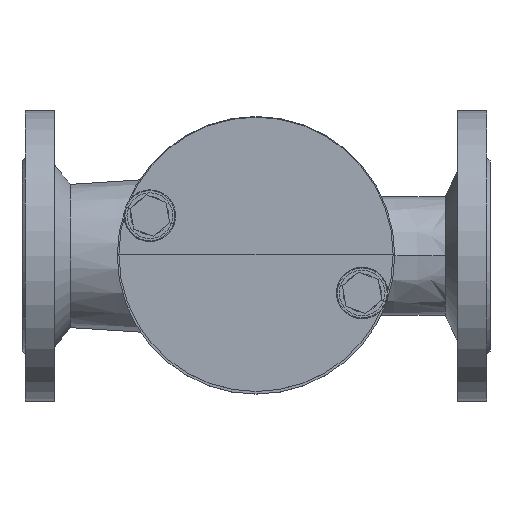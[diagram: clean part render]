
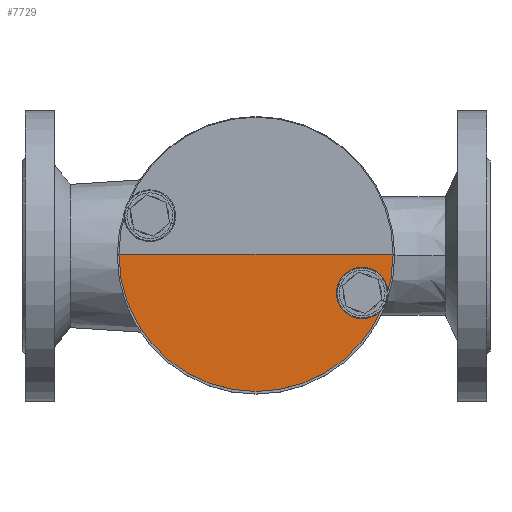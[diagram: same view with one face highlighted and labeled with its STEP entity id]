
A CAD part, top view. The second image highlights one B-rep face of the part: STEP entity #7729.
In plain terms, the highlighted planar face has unit normal (0, 0, 1).
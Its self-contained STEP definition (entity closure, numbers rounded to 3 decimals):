
#542=LINE('',#14360,#923);
#923=VECTOR('',#10383,304.8);
#1583=FACE_OUTER_BOUND('',#2141,.T.);
#2141=EDGE_LOOP('',(#5809,#5810));
#2756=CIRCLE('',#8582,84.997);
#3347=VERTEX_POINT('',#14343);
#3348=VERTEX_POINT('',#14345);
#4169=EDGE_CURVE('',#3348,#3347,#2756,.T.);
#4174=EDGE_CURVE('',#3347,#3348,#542,.T.);
#5809=ORIENTED_EDGE('',*,*,#4169,.F.);
#5810=ORIENTED_EDGE('',*,*,#4174,.F.);
#6843=PLANE('',#8588);
#7729=ADVANCED_FACE('',(#1583),#6843,.F.);
#8582=AXIS2_PLACEMENT_3D('',#14350,#10369,#10370);
#8588=AXIS2_PLACEMENT_3D('',#14361,#10384,#10385);
#10369=DIRECTION('center_axis',(0.,0.,-1.));
#10370=DIRECTION('ref_axis',(-1.,0.,0.));
#10383=DIRECTION('',(1.,0.,0.));
#10384=DIRECTION('center_axis',(0.,0.,-1.));
#10385=DIRECTION('ref_axis',(-1.,0.,0.));
#14343=CARTESIAN_POINT('',(-84.997,0.,479.305));
#14345=CARTESIAN_POINT('',(84.997,0.,479.305));
#14350=CARTESIAN_POINT('Origin',(0.,0.,479.305));
#14360=CARTESIAN_POINT('',(-84.997,0.,479.305));
#14361=CARTESIAN_POINT('Origin',(0.,0.,479.305));
